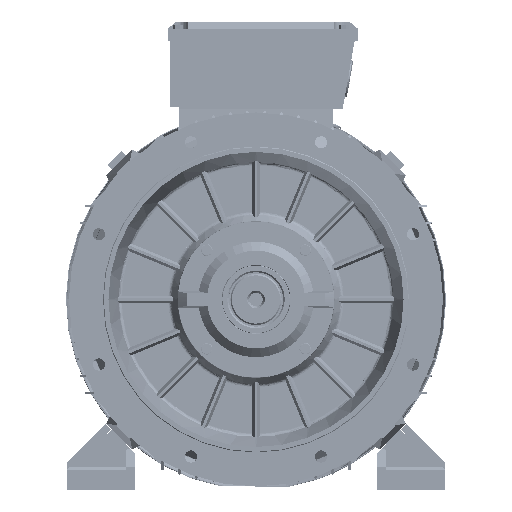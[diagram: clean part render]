
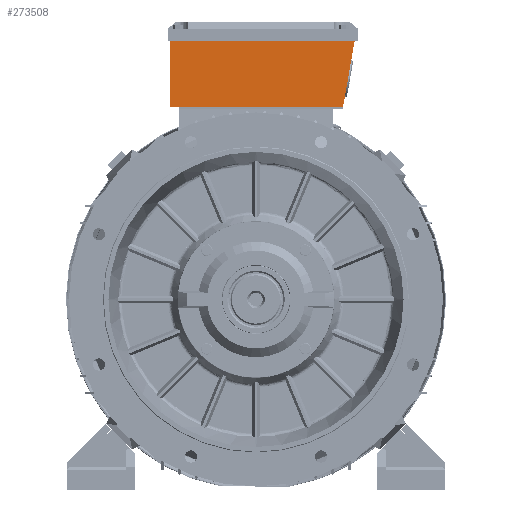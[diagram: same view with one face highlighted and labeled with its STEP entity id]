
A CAD part, left-side view. The second image highlights one B-rep face of the part: STEP entity #273508.
In plain terms, the highlighted planar face has unit normal (-1, 0, 0).
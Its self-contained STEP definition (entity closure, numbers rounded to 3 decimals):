
#6534 = EDGE_CURVE ( 'NONE', #139190, #295355, #151800, .T. ) ;
#10060 = EDGE_CURVE ( 'NONE', #349654, #139190, #328292, .T. ) ;
#14127 = ORIENTED_EDGE ( 'NONE', *, *, #112499, .T. ) ;
#28526 = CARTESIAN_POINT ( 'NONE',  ( -62.408, 130.487, 278.917 ) ) ;
#38664 = VECTOR ( 'NONE', #341652, 1000. ) ;
#40312 = DIRECTION ( 'NONE',  ( 0., 0., -1. ) ) ;
#57340 = CARTESIAN_POINT ( 'NONE',  ( -62.408, 130.487, 375.917 ) ) ;
#59506 = CARTESIAN_POINT ( 'NONE',  ( -62.408, 130.487, 375.917 ) ) ;
#60126 = DIRECTION ( 'NONE',  ( 0., -1., 0. ) ) ;
#66119 = VECTOR ( 'NONE', #40312, 1000. ) ;
#88219 = DIRECTION ( 'NONE',  ( 0., -0.174, 0.985 ) ) ;
#96367 = ORIENTED_EDGE ( 'NONE', *, *, #10060, .T. ) ;
#97830 = DIRECTION ( 'NONE',  ( 0., -1., 0. ) ) ;
#112499 = EDGE_CURVE ( 'NONE', #295355, #239488, #320451, .T. ) ;
#133242 = VECTOR ( 'NONE', #88219, 1000. ) ;
#139190 = VERTEX_POINT ( 'NONE', #28526 ) ;
#151800 = LINE ( 'NONE', #239110, #160728 ) ;
#160728 = VECTOR ( 'NONE', #97830, 1000. ) ;
#175315 = FACE_OUTER_BOUND ( 'NONE', #280474, .T. ) ;
#189468 = AXIS2_PLACEMENT_3D ( 'NONE', #311091, #227418, #60126 ) ;
#197729 = PLANE ( 'NONE',  #189468 ) ;
#205225 = CARTESIAN_POINT ( 'NONE',  ( -62.408, -122.913, 275.917 ) ) ;
#220121 = CARTESIAN_POINT ( 'NONE',  ( -62.408, -123.442, 278.917 ) ) ;
#227418 = DIRECTION ( 'NONE',  ( -1., 0., 0. ) ) ;
#239110 = CARTESIAN_POINT ( 'NONE',  ( -62.408, 130.487, 278.917 ) ) ;
#239488 = VERTEX_POINT ( 'NONE', #240778 ) ;
#240778 = CARTESIAN_POINT ( 'NONE',  ( -62.408, -140.545, 375.917 ) ) ;
#256204 = LINE ( 'NONE', #57340, #38664 ) ;
#273508 = ADVANCED_FACE ( 'NONE', ( #175315 ), #197729, .T. ) ;
#280474 = EDGE_LOOP ( 'NONE', ( #319529, #14127, #360673, #96367 ) ) ;
#281187 = EDGE_CURVE ( 'NONE', #239488, #349654, #256204, .T. ) ;
#295355 = VERTEX_POINT ( 'NONE', #220121 ) ;
#296788 = CARTESIAN_POINT ( 'NONE',  ( -62.408, 130.487, 278.917 ) ) ;
#311091 = CARTESIAN_POINT ( 'NONE',  ( -62.408, 116.987, 275.917 ) ) ;
#319529 = ORIENTED_EDGE ( 'NONE', *, *, #6534, .T. ) ;
#320451 = LINE ( 'NONE', #205225, #133242 ) ;
#328292 = LINE ( 'NONE', #296788, #66119 ) ;
#341652 = DIRECTION ( 'NONE',  ( 0., 1., 0. ) ) ;
#349654 = VERTEX_POINT ( 'NONE', #59506 ) ;
#360673 = ORIENTED_EDGE ( 'NONE', *, *, #281187, .T. ) ;
